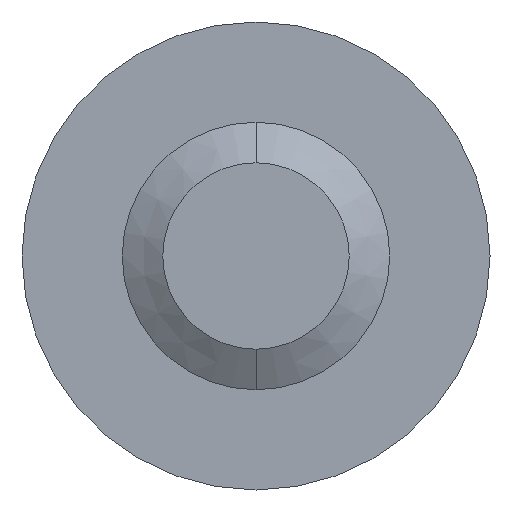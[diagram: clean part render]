
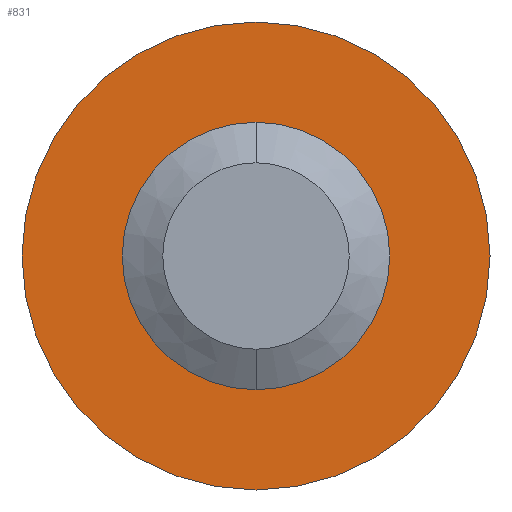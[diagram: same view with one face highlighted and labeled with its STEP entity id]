
A CAD part, front view. The second image highlights one B-rep face of the part: STEP entity #831.
In plain terms, the highlighted planar face has unit normal (0, -1, 0).
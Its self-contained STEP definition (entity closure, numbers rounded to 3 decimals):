
#20 = CIRCLE ( 'NONE', #66, 3.5 ) ;
#34 = VERTEX_POINT ( 'NONE', #1058 ) ;
#38 = DIRECTION ( 'NONE',  ( 0., 1., 0. ) ) ;
#50 = EDGE_CURVE ( 'NONE', #768, #34, #448, .T. ) ;
#66 = AXIS2_PLACEMENT_3D ( 'NONE', #417, #891, #1347 ) ;
#78 = DIRECTION ( 'NONE',  ( 0., 0., 1. ) ) ;
#110 = EDGE_CURVE ( 'NONE', #34, #768, #870, .T. ) ;
#152 = FACE_BOUND ( 'NONE', #852, .T. ) ;
#192 = CARTESIAN_POINT ( 'NONE',  ( 0., 5., 0. ) ) ;
#258 = AXIS2_PLACEMENT_3D ( 'NONE', #647, #628, #78 ) ;
#318 = EDGE_CURVE ( 'NONE', #502, #1201, #20, .T. ) ;
#354 = AXIS2_PLACEMENT_3D ( 'NONE', #389, #840, #1419 ) ;
#389 = CARTESIAN_POINT ( 'NONE',  ( 0., 5., 0. ) ) ;
#417 = CARTESIAN_POINT ( 'NONE',  ( 0., 5., 0. ) ) ;
#448 = CIRCLE ( 'NONE', #1230, 2. ) ;
#491 = CARTESIAN_POINT ( 'NONE',  ( 0., 5., 0. ) ) ;
#502 = VERTEX_POINT ( 'NONE', #1125 ) ;
#628 = DIRECTION ( 'NONE',  ( 0., 1., 0. ) ) ;
#647 = CARTESIAN_POINT ( 'NONE',  ( 0., 5., 0. ) ) ;
#725 = DIRECTION ( 'NONE',  ( 0., 0., 1. ) ) ;
#763 = DIRECTION ( 'NONE',  ( 0., 0., 1. ) ) ;
#768 = VERTEX_POINT ( 'NONE', #1070 ) ;
#793 = EDGE_LOOP ( 'NONE', ( #977, #1342 ) ) ;
#799 = ORIENTED_EDGE ( 'NONE', *, *, #110, .T. ) ;
#831 = ADVANCED_FACE ( 'NONE', ( #959, #152 ), #1292, .F. ) ;
#840 = DIRECTION ( 'NONE',  ( 0., 1., 0. ) ) ;
#852 = EDGE_LOOP ( 'NONE', ( #799, #1381 ) ) ;
#870 = CIRCLE ( 'NONE', #258, 2. ) ;
#891 = DIRECTION ( 'NONE',  ( 0., 1., 0. ) ) ;
#959 = FACE_OUTER_BOUND ( 'NONE', #793, .T. ) ;
#977 = ORIENTED_EDGE ( 'NONE', *, *, #1370, .F. ) ;
#1058 = CARTESIAN_POINT ( 'NONE',  ( 0., 5., -2. ) ) ;
#1070 = CARTESIAN_POINT ( 'NONE',  ( 0., 5., 2. ) ) ;
#1125 = CARTESIAN_POINT ( 'NONE',  ( 0., 5., 3.5 ) ) ;
#1201 = VERTEX_POINT ( 'NONE', #1253 ) ;
#1230 = AXIS2_PLACEMENT_3D ( 'NONE', #491, #38, #725 ) ;
#1253 = CARTESIAN_POINT ( 'NONE',  ( 0., 5., -3.5 ) ) ;
#1292 = PLANE ( 'NONE',  #354 ) ;
#1327 = DIRECTION ( 'NONE',  ( 0., 1., 0. ) ) ;
#1342 = ORIENTED_EDGE ( 'NONE', *, *, #318, .F. ) ;
#1347 = DIRECTION ( 'NONE',  ( 0., 0., 1. ) ) ;
#1370 = EDGE_CURVE ( 'NONE', #1201, #502, #1455, .T. ) ;
#1381 = ORIENTED_EDGE ( 'NONE', *, *, #50, .T. ) ;
#1419 = DIRECTION ( 'NONE',  ( 0., 0., 1. ) ) ;
#1455 = CIRCLE ( 'NONE', #1479, 3.5 ) ;
#1479 = AXIS2_PLACEMENT_3D ( 'NONE', #192, #1327, #763 ) ;
